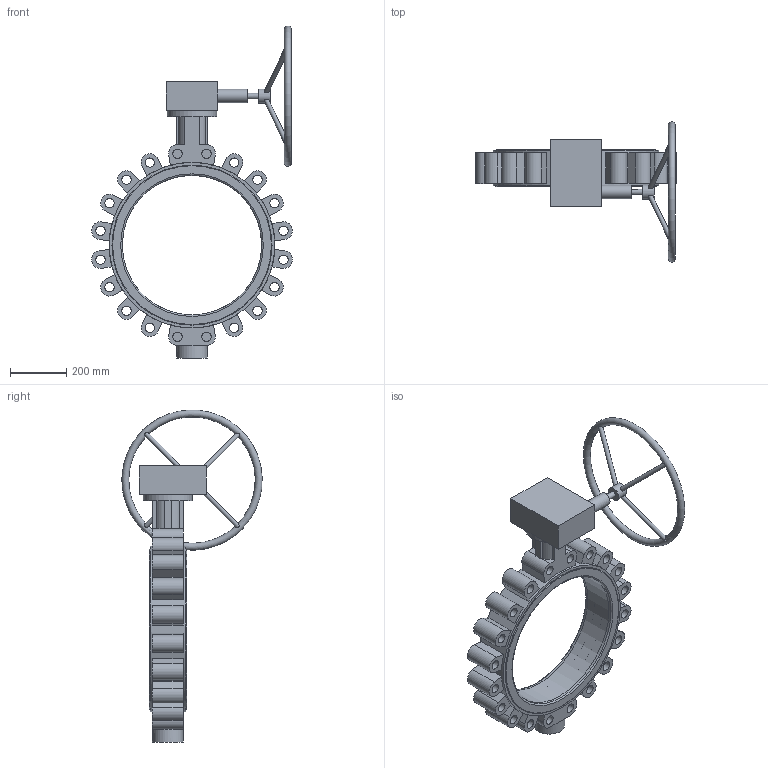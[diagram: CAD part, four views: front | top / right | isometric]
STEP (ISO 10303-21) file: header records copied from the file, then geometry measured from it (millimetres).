
FILE_DESCRIPTION (( 'STEP AP203' ), '1' );
FILE_NAME ('2502 LT型中线衬胶带销 手动头蝶阀 DN500 PN25 CD0309066.STEP', '2026-04-01T03:23:54', ( '' ), ( '' ), 'SwSTEP 2.0', 'SolidWorks 2018', '' );
FILE_SCHEMA (( 'CONFIG_CONTROL_DESIGN' ));
Length unit declared in the file: millimetre
Products named in the file (4): 2502 LT型中线衬胶带销 手动头蝶阀 DN500 PN25 CD0309066; GALA-D500-01LC25-01; GALA-D500-04AC-01; G200-X 忒謫500 潠趙
Assembly tree (3 placements, depth 2):
  2502 LT型中线衬胶带销 手动头蝶阀 DN500 PN25 CD0309066
    GALA-D500-01LC25-01
    GALA-D500-04AC-01
    G200-X 忒謫500 潠趙
Bounding box: 714.86 x 499.86 x 1182.68 mm (x, y, z)
Volume: 25239278.6 mm3; surface area: 2238410.9 mm2
Topology: 3 solids, 3 shells, 204 faces, 484 edges, 317 vertices
Faces by surface type: plane 117, cylinder 70, torus 9, cone 8
Full cylindrical faces by diameter (mm): 16 x4, 18 x4, 20 x1, 33 x24, 45.644 x1, 48 x1, 50 x1, 110 x1, 175 x1, 496.523 x1, 503 x1, 505.187 x1, 570 x4, 590 x1
Entity records: 6789 total; most frequent: CARTESIAN_POINT 1715, DIRECTION 1008, ORIENTED_EDGE 818, EDGE_CURVE 409, AXIS2_PLACEMENT_3D 399, EDGE_LOOP 350, VERTEX_POINT 307, FACE_OUTER_BOUND 257
